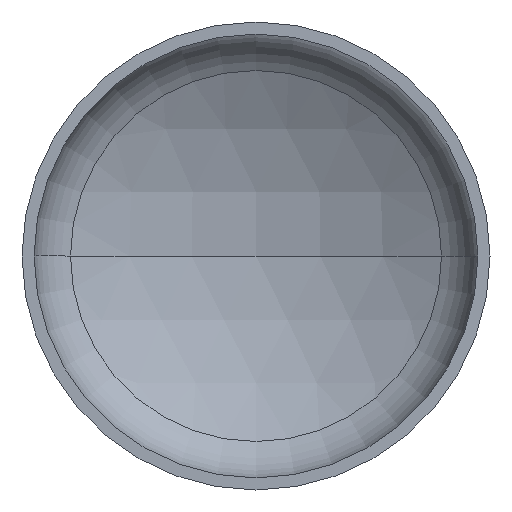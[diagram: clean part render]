
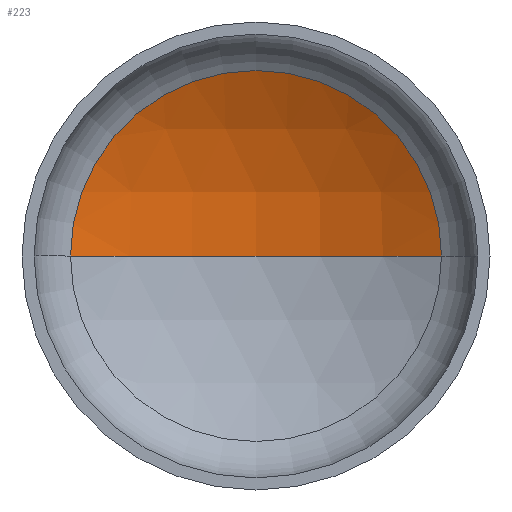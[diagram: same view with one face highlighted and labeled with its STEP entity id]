
A CAD part, front view. The second image highlights one B-rep face of the part: STEP entity #223.
In plain terms, the highlighted spherical face has radius 960 mm.
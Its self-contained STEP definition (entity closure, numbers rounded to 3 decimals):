
#13 = EDGE_LOOP ( 'NONE', ( #48, #289, #142 ) ) ;
#14 = DIRECTION ( 'NONE',  ( 0., 0., 1. ) ) ;
#18 = AXIS2_PLACEMENT_3D ( 'NONE', #279, #282, #182 ) ;
#32 = AXIS2_PLACEMENT_3D ( 'NONE', #40, #14, #358 ) ;
#35 = AXIS2_PLACEMENT_3D ( 'NONE', #213, #211, #212 ) ;
#36 = AXIS2_PLACEMENT_3D ( 'NONE', #301, #300, #224 ) ;
#40 = CARTESIAN_POINT ( 'NONE',  ( 0., -573.178, 0. ) ) ;
#48 = ORIENTED_EDGE ( 'NONE', *, *, #113, .F. ) ;
#80 = EDGE_CURVE ( 'NONE', #127, #408, #396, .T. ) ;
#81 = EDGE_CURVE ( 'NONE', #112, #127, #333, .T. ) ;
#112 = VERTEX_POINT ( 'NONE', #342 ) ;
#113 = EDGE_CURVE ( 'NONE', #112, #408, #325, .T. ) ;
#127 = VERTEX_POINT ( 'NONE', #364 ) ;
#142 = ORIENTED_EDGE ( 'NONE', *, *, #80, .T. ) ;
#182 = DIRECTION ( 'NONE',  ( -1., 0., 0. ) ) ;
#211 = DIRECTION ( 'NONE',  ( 0., 0., -1. ) ) ;
#212 = DIRECTION ( 'NONE',  ( -1., 0., 0. ) ) ;
#213 = CARTESIAN_POINT ( 'NONE',  ( 0., -573.178, 0. ) ) ;
#223 = ADVANCED_FACE ( 'NONE', ( #374 ), #257, .F. ) ;
#224 = DIRECTION ( 'NONE',  ( 1., 0., 0. ) ) ;
#257 = SPHERICAL_SURFACE ( 'NONE', #18, 960. ) ;
#279 = CARTESIAN_POINT ( 'NONE',  ( 0., -573.178, 0. ) ) ;
#282 = DIRECTION ( 'NONE',  ( 0., 0., -1. ) ) ;
#289 = ORIENTED_EDGE ( 'NONE', *, *, #81, .T. ) ;
#300 = DIRECTION ( 'NONE',  ( 0., -1., 0. ) ) ;
#301 = CARTESIAN_POINT ( 'NONE',  ( 0., 260.694, 0. ) ) ;
#325 = CIRCLE ( 'NONE', #32, 960. ) ;
#333 = CIRCLE ( 'NONE', #35, 960. ) ;
#342 = CARTESIAN_POINT ( 'NONE',  ( 0., 386.822, 0. ) ) ;
#358 = DIRECTION ( 'NONE',  ( 1., 0., 0. ) ) ;
#364 = CARTESIAN_POINT ( 'NONE',  ( 475.665, 260.694, 0. ) ) ;
#367 = CARTESIAN_POINT ( 'NONE',  ( -475.665, 260.694, 0. ) ) ;
#374 = FACE_OUTER_BOUND ( 'NONE', #13, .T. ) ;
#396 = CIRCLE ( 'NONE', #36, 475.665 ) ;
#408 = VERTEX_POINT ( 'NONE', #367 ) ;
